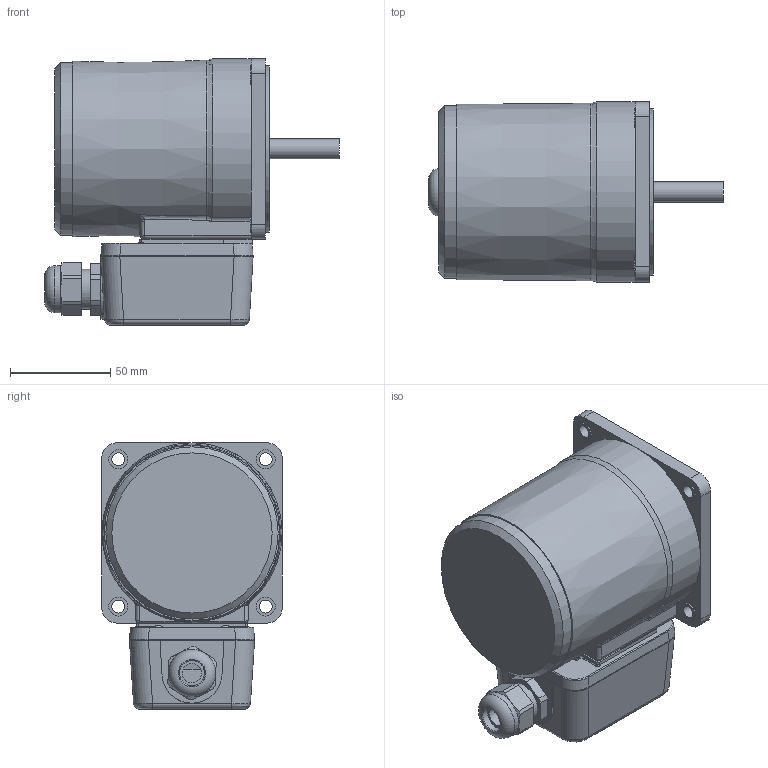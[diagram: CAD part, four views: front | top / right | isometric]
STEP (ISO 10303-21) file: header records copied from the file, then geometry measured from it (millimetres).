
FILE_DESCRIPTION((''),'2;1');
FILE_NAME('D:\STP파일\40W MOTOR\T BOX TYPE\S9(I,R)40S-T.stp','2013-05-20T17:58:18',('leebh'),(''),'Autodesk Inventor 2011','Autodesk Inventor 2011','');
FILE_SCHEMA(('AUTOMOTIVE_DESIGN { 1 0 10303 214 1 1 1 1 }'));
Length unit declared in the file: millimetre
Products named in the file (1): 부품3
Bounding box: 147 x 90 x 133 mm (x, y, z)
Volume: 853292.5 mm3; surface area: 71195.4 mm2
Topology: 1 solids, 9 shells, 368 faces, 905 edges, 574 vertices
Faces by surface type: plane 188, cylinder 109, bspline 49, torus 18, cone 4
Full cylindrical faces by diameter (mm): 2.55 x2, 5.6 x4, 6.3 x4, 6.5 x4, 9.5 x4, 10 x1, 12.5 x1, 15 x1, 20 x2, 21 x1, 23.6 x1, 40 x1, 83 x1, 86 x1
Entity records: 12639 total; most frequent: CARTESIAN_POINT 4065, ORIENTED_EDGE 1684, DIRECTION 1632, EDGE_CURVE 842, AXIS2_PLACEMENT_3D 588, VERTEX_POINT 562, VECTOR 456, LINE 456
